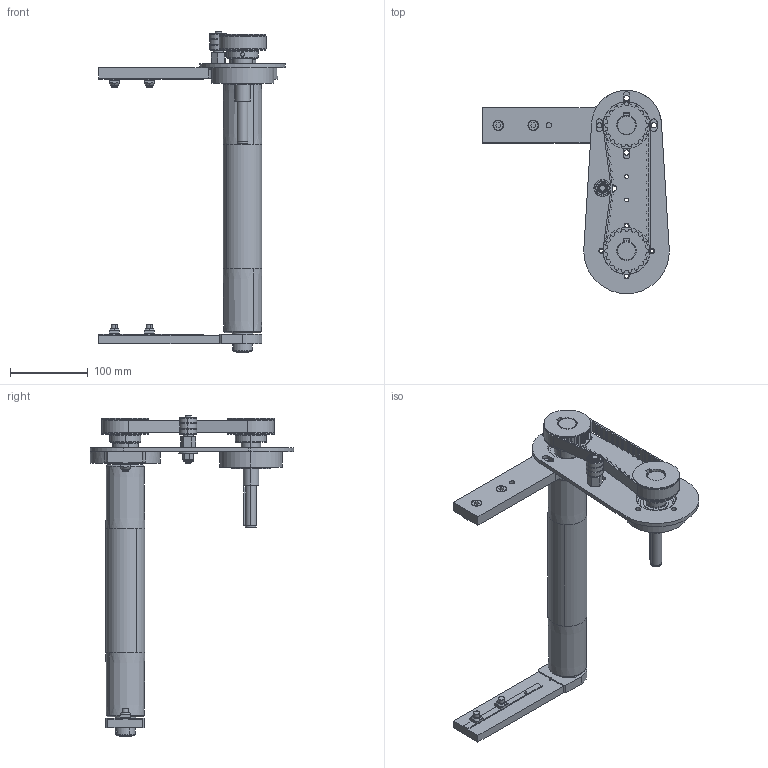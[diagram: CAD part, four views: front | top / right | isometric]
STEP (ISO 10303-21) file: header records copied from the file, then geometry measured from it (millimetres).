
FILE_DESCRIPTION (( 'STEP AP203' ), '1' );
FILE_NAME ('084.050.KTB.30.300.STEP', '2019-07-29T13:30:34', ( '' ), ( '' ), 'SwSTEP 2.0', 'SolidWorks 2018', '' );
FILE_SCHEMA (( 'CONFIG_CONTROL_DESIGN' ));
Length unit declared in the file: millimetre
Products named in the file (24): 084.807.001_084.807.001; 084.301.000 VITI ALUSIC_084.301.003; 084.807.002_084.807.002; 084.802.021; 084.810.001; 084.302.000 DADI ALUSIC 13x13_084.302.004; 084.802.034_084.802.034; Circlip DIN 471 - 8 x 0.8_Circlip DIN 471 - 8 x 0.8; 084.821.002; CHIAVETTE_A 5x5x50 UNI 6604-69; 084.821.003; 084.813.001; 084.813.006; 084.811.004; 084.809.004; RONDELLE FASCIA LARGA UNI 6593_8.4x24 UNI 6593; 084.809.001; 084.810.006; 084.802.017_084.802.017; 084.050.KTB.30.300; CUSCINETTI A SFERE_608-2RS; 084.815.105_Default<A macchina>; 084.810.008; DADI ESAGONALI AUTOBLOCCANTI UNI 7473_M8 UNI 7473
Assembly tree (33 placements, depth 3):
  084.050.KTB.30.300
    084.811.004
    084.813.001
    084.810.001  x2
    084.802.034_084.802.034
    084.802.017_084.802.017
    084.807.001_084.807.001
    084.807.002_084.807.002
    084.809.004
    084.813.006
    084.802.021
    084.809.001
    084.301.000 VITI ALUSIC_084.301.003  x4
    084.302.000 DADI ALUSIC 13x13_084.302.004  x4
    CHIAVETTE_A 5x5x50 UNI 6604-69
    084.821.002  x2
    084.810.006
      084.810.008
      CUSCINETTI A SFERE_608-2RS  x3
      Circlip DIN 471 - 8 x 0.8_Circlip DIN 471 - 8 x 0.8
      RONDELLE FASCIA LARGA UNI 6593_8.4x24 UNI 6593
      DADI ESAGONALI AUTOBLOCCANTI UNI 7473_M8 UNI 7473
    084.821.003
    084.815.105_Default<A macchina>
Bounding box: 240 x 261.5 x 412 mm (x, y, z)
Volume: 903998.2 mm3; surface area: 413788.6 mm2
Topology: 37 solids, 38 shells, 1461 faces, 3847 edges, 2509 vertices
Faces by surface type: plane 650, cylinder 584, cone 112, torus 106, sphere 9
Entity records: 37494 total; most frequent: CARTESIAN_POINT 6837, DIRECTION 6106, ORIENTED_EDGE 5676, EDGE_CURVE 2838, AXIS2_PLACEMENT_3D 2247, VERTEX_POINT 1852, LINE 1612, VECTOR 1612
